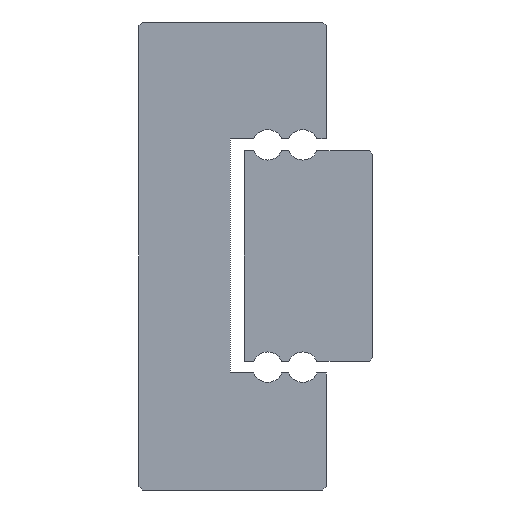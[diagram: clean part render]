
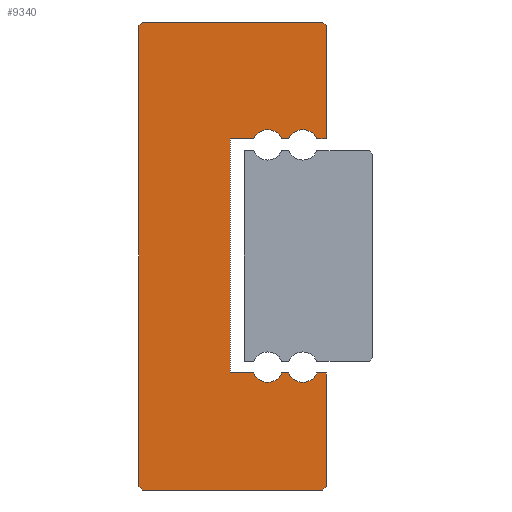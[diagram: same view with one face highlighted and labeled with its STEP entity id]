
A CAD part, left-side view. The second image highlights one B-rep face of the part: STEP entity #9340.
In plain terms, the highlighted planar face has unit normal (-1, 0, 0).
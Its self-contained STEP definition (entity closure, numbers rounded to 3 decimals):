
#72=LINE('',#14262,#888);
#210=LINE('',#15035,#1026);
#213=LINE('',#15041,#1029);
#216=LINE('',#15047,#1032);
#220=LINE('',#15059,#1036);
#224=LINE('',#15071,#1040);
#227=LINE('',#15077,#1043);
#230=LINE('',#15083,#1046);
#234=LINE('',#15095,#1050);
#238=LINE('',#15107,#1054);
#241=LINE('',#15113,#1057);
#244=LINE('',#15119,#1060);
#247=LINE('',#15125,#1063);
#250=LINE('',#15131,#1066);
#253=LINE('',#15149,#1069);
#256=LINE('',#15155,#1072);
#888=VECTOR('',#11133,1000.);
#1026=VECTOR('',#11769,1000.);
#1029=VECTOR('',#11774,1000.);
#1032=VECTOR('',#11779,1000.);
#1036=VECTOR('',#11791,1000.);
#1040=VECTOR('',#11803,1000.);
#1043=VECTOR('',#11808,1000.);
#1046=VECTOR('',#11813,1000.);
#1050=VECTOR('',#11825,1000.);
#1054=VECTOR('',#11837,1000.);
#1057=VECTOR('',#11842,1000.);
#1060=VECTOR('',#11847,1000.);
#1063=VECTOR('',#11852,1000.);
#1066=VECTOR('',#11857,1000.);
#1069=VECTOR('',#11874,1000.);
#1072=VECTOR('',#11879,1000.);
#1701=PLANE('',#10176);
#2473=ORIENTED_EDGE('',*,*,#4821,.F.);
#2474=ORIENTED_EDGE('',*,*,#5267,.F.);
#2475=ORIENTED_EDGE('',*,*,#5264,.F.);
#2476=ORIENTED_EDGE('',*,*,#5255,.F.);
#2477=ORIENTED_EDGE('',*,*,#5252,.F.);
#2478=ORIENTED_EDGE('',*,*,#5249,.F.);
#2479=ORIENTED_EDGE('',*,*,#5246,.F.);
#2480=ORIENTED_EDGE('',*,*,#5243,.F.);
#2481=ORIENTED_EDGE('',*,*,#5240,.T.);
#2482=ORIENTED_EDGE('',*,*,#5237,.F.);
#2483=ORIENTED_EDGE('',*,*,#5234,.T.);
#2484=ORIENTED_EDGE('',*,*,#5231,.F.);
#2485=ORIENTED_EDGE('',*,*,#5228,.F.);
#2486=ORIENTED_EDGE('',*,*,#5225,.F.);
#2487=ORIENTED_EDGE('',*,*,#5222,.T.);
#2488=ORIENTED_EDGE('',*,*,#5219,.F.);
#2489=ORIENTED_EDGE('',*,*,#5216,.T.);
#2490=ORIENTED_EDGE('',*,*,#5213,.F.);
#2491=ORIENTED_EDGE('',*,*,#5210,.F.);
#2492=ORIENTED_EDGE('',*,*,#5207,.F.);
#4821=EDGE_CURVE('',#6251,#6252,#72,.T.);
#5207=EDGE_CURVE('',#6252,#6637,#210,.T.);
#5210=EDGE_CURVE('',#6637,#6639,#213,.T.);
#5213=EDGE_CURVE('',#6639,#6641,#216,.T.);
#5216=EDGE_CURVE('',#6643,#6641,#7451,.T.);
#5219=EDGE_CURVE('',#6643,#6645,#220,.T.);
#5222=EDGE_CURVE('',#6647,#6645,#7453,.T.);
#5225=EDGE_CURVE('',#6647,#6649,#224,.T.);
#5228=EDGE_CURVE('',#6649,#6651,#227,.T.);
#5231=EDGE_CURVE('',#6651,#6653,#230,.T.);
#5234=EDGE_CURVE('',#6655,#6653,#7455,.T.);
#5237=EDGE_CURVE('',#6655,#6657,#234,.T.);
#5240=EDGE_CURVE('',#6659,#6657,#7457,.T.);
#5243=EDGE_CURVE('',#6659,#6661,#238,.T.);
#5246=EDGE_CURVE('',#6661,#6663,#241,.T.);
#5249=EDGE_CURVE('',#6663,#6665,#244,.T.);
#5252=EDGE_CURVE('',#6665,#6667,#247,.T.);
#5255=EDGE_CURVE('',#6667,#6669,#250,.T.);
#5264=EDGE_CURVE('',#6669,#6677,#253,.T.);
#5267=EDGE_CURVE('',#6677,#6251,#256,.T.);
#6251=VERTEX_POINT('',#14263);
#6252=VERTEX_POINT('',#14264);
#6637=VERTEX_POINT('',#15036);
#6639=VERTEX_POINT('',#15042);
#6641=VERTEX_POINT('',#15048);
#6643=VERTEX_POINT('',#15054);
#6645=VERTEX_POINT('',#15060);
#6647=VERTEX_POINT('',#15066);
#6649=VERTEX_POINT('',#15072);
#6651=VERTEX_POINT('',#15078);
#6653=VERTEX_POINT('',#15084);
#6655=VERTEX_POINT('',#15090);
#6657=VERTEX_POINT('',#15096);
#6659=VERTEX_POINT('',#15102);
#6661=VERTEX_POINT('',#15108);
#6663=VERTEX_POINT('',#15114);
#6665=VERTEX_POINT('',#15120);
#6667=VERTEX_POINT('',#15126);
#6669=VERTEX_POINT('',#15132);
#6677=VERTEX_POINT('',#15150);
#7451=CIRCLE('',#10146,0.65);
#7453=CIRCLE('',#10150,0.65);
#7455=CIRCLE('',#10156,0.65);
#7457=CIRCLE('',#10160,0.65);
#7897=EDGE_LOOP('',(#2473,#2474,#2475,#2476,#2477,#2478,#2479,#2480,#2481,
#2482,#2483,#2484,#2485,#2486,#2487,#2488,#2489,#2490,#2491,#2492));
#8483=FACE_BOUND('',#7897,.T.);
#9340=ADVANCED_FACE('',(#8483),#1701,.F.);
#10146=AXIS2_PLACEMENT_3D('',#15053,#11784,#11785);
#10150=AXIS2_PLACEMENT_3D('',#15065,#11796,#11797);
#10156=AXIS2_PLACEMENT_3D('',#15089,#11818,#11819);
#10160=AXIS2_PLACEMENT_3D('',#15101,#11830,#11831);
#10176=AXIS2_PLACEMENT_3D('',#15158,#11883,#11884);
#11133=DIRECTION('',(0.,-1.,0.));
#11769=DIRECTION('',(0.,-0.707,-0.707));
#11774=DIRECTION('',(0.,0.,-1.));
#11779=DIRECTION('',(0.,1.,0.));
#11784=DIRECTION('',(1.,0.,0.));
#11785=DIRECTION('',(0.,0.,-1.));
#11791=DIRECTION('',(0.,1.,0.));
#11796=DIRECTION('',(1.,0.,0.));
#11797=DIRECTION('',(0.,0.,-1.));
#11803=DIRECTION('',(0.,1.,0.));
#11808=DIRECTION('',(0.,0.,-1.));
#11813=DIRECTION('',(0.,-1.,0.));
#11818=DIRECTION('',(1.,0.,0.));
#11819=DIRECTION('',(0.,0.,-1.));
#11825=DIRECTION('',(0.,-1.,0.));
#11830=DIRECTION('',(1.,0.,0.));
#11831=DIRECTION('',(0.,0.,-1.));
#11837=DIRECTION('',(0.,-1.,0.));
#11842=DIRECTION('',(0.,0.,-1.));
#11847=DIRECTION('',(0.,0.707,-0.707));
#11852=DIRECTION('',(0.,1.,0.));
#11857=DIRECTION('',(0.,0.707,0.707));
#11874=DIRECTION('',(0.,0.,1.));
#11879=DIRECTION('',(0.,-0.707,0.707));
#11883=DIRECTION('',(1.,0.,0.));
#11884=DIRECTION('',(0.,0.,-1.));
#14262=CARTESIAN_POINT('',(-20.,7.85,10.));
#14263=CARTESIAN_POINT('',(-20.,7.85,10.));
#14264=CARTESIAN_POINT('',(-20.,0.15,10.));
#15035=CARTESIAN_POINT('',(-20.,0.15,10.));
#15036=CARTESIAN_POINT('',(-20.,0.,9.85));
#15041=CARTESIAN_POINT('',(-20.,0.,9.85));
#15042=CARTESIAN_POINT('',(-20.,0.,5.));
#15047=CARTESIAN_POINT('',(-20.,0.,5.));
#15048=CARTESIAN_POINT('',(-20.,0.4,5.));
#15053=CARTESIAN_POINT('',(-20.,1.,4.75));
#15054=CARTESIAN_POINT('',(-20.,1.6,5.));
#15059=CARTESIAN_POINT('',(-20.,1.6,5.));
#15060=CARTESIAN_POINT('',(-20.,1.9,5.));
#15065=CARTESIAN_POINT('',(-20.,2.5,4.75));
#15066=CARTESIAN_POINT('',(-20.,3.1,5.));
#15071=CARTESIAN_POINT('',(-20.,3.1,5.));
#15072=CARTESIAN_POINT('',(-20.,4.1,5.));
#15077=CARTESIAN_POINT('',(-20.,4.1,5.));
#15078=CARTESIAN_POINT('',(-20.,4.1,-5.));
#15083=CARTESIAN_POINT('',(-20.,4.1,-5.));
#15084=CARTESIAN_POINT('',(-20.,3.1,-5.));
#15089=CARTESIAN_POINT('',(-20.,2.5,-4.75));
#15090=CARTESIAN_POINT('',(-20.,1.9,-5.));
#15095=CARTESIAN_POINT('',(-20.,1.9,-5.));
#15096=CARTESIAN_POINT('',(-20.,1.6,-5.));
#15101=CARTESIAN_POINT('',(-20.,1.,-4.75));
#15102=CARTESIAN_POINT('',(-20.,0.4,-5.));
#15107=CARTESIAN_POINT('',(-20.,0.4,-5.));
#15108=CARTESIAN_POINT('',(-20.,0.,-5.));
#15113=CARTESIAN_POINT('',(-20.,0.,-5.));
#15114=CARTESIAN_POINT('',(-20.,0.,-9.85));
#15119=CARTESIAN_POINT('',(-20.,0.,-9.85));
#15120=CARTESIAN_POINT('',(-20.,0.15,-10.));
#15125=CARTESIAN_POINT('',(-20.,0.15,-10.));
#15126=CARTESIAN_POINT('',(-20.,7.85,-10.));
#15131=CARTESIAN_POINT('',(-20.,7.85,-10.));
#15132=CARTESIAN_POINT('',(-20.,8.,-9.85));
#15149=CARTESIAN_POINT('',(-20.,8.,-9.85));
#15150=CARTESIAN_POINT('',(-20.,8.,9.85));
#15155=CARTESIAN_POINT('',(-20.,8.,9.85));
#15158=CARTESIAN_POINT('',(-20.,1.,4.75));
